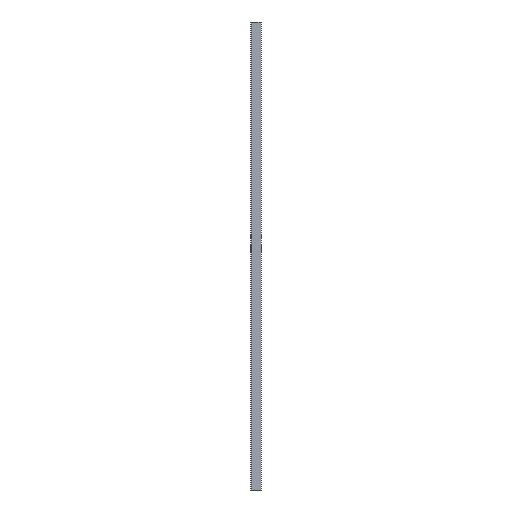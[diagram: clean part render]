
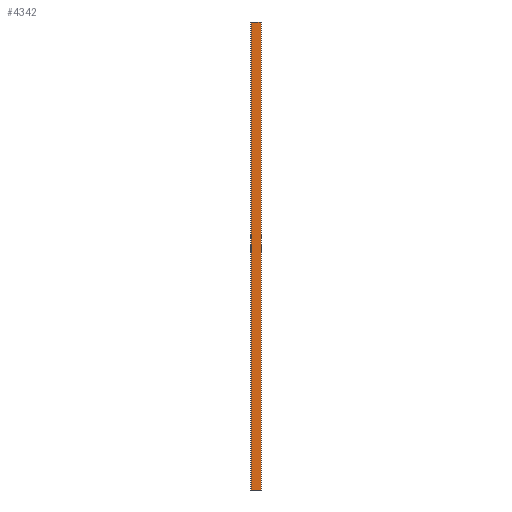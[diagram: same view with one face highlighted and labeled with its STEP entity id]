
A CAD part, left-side view. The second image highlights one B-rep face of the part: STEP entity #4342.
In plain terms, the highlighted planar face has unit normal (-1, 0, 0).
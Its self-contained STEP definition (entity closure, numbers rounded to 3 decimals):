
#214 = VECTOR ( 'NONE', #11265, 1000. ) ;
#708 = CARTESIAN_POINT ( 'NONE',  ( -27., -68.8, 1500. ) ) ;
#711 = DIRECTION ( 'NONE',  ( 0., 0., -1. ) ) ;
#1959 = DIRECTION ( 'NONE',  ( 0., 1., 0. ) ) ;
#2703 = LINE ( 'NONE', #9348, #5170 ) ;
#2888 = DIRECTION ( 'NONE',  ( 0., 0., -1. ) ) ;
#3363 = FACE_OUTER_BOUND ( 'NONE', #11208, .T. ) ;
#3382 = DIRECTION ( 'NONE',  ( -1., 0., 0. ) ) ;
#3549 = EDGE_CURVE ( 'NONE', #11297, #11405, #8459, .T. ) ;
#4342 = ADVANCED_FACE ( 'NONE', ( #3363 ), #9614, .T. ) ;
#4359 = CARTESIAN_POINT ( 'NONE',  ( -27., 0., 1500. ) ) ;
#4829 = LINE ( 'NONE', #10146, #11556 ) ;
#4924 = EDGE_CURVE ( 'NONE', #11297, #7346, #2703, .T. ) ;
#5170 = VECTOR ( 'NONE', #2888, 1000. ) ;
#5526 = ORIENTED_EDGE ( 'NONE', *, *, #8708, .F. ) ;
#5666 = VECTOR ( 'NONE', #1959, 1000. ) ;
#6316 = CARTESIAN_POINT ( 'NONE',  ( -27., -68.8, -1500. ) ) ;
#6443 = LINE ( 'NONE', #9128, #214 ) ;
#6538 = ORIENTED_EDGE ( 'NONE', *, *, #3549, .T. ) ;
#7000 = AXIS2_PLACEMENT_3D ( 'NONE', #4359, #3382, #10755 ) ;
#7218 = CARTESIAN_POINT ( 'NONE',  ( -27., 0., 1500. ) ) ;
#7346 = VERTEX_POINT ( 'NONE', #6316 ) ;
#7648 = EDGE_CURVE ( 'NONE', #11405, #12990, #4829, .T. ) ;
#8459 = LINE ( 'NONE', #7218, #5666 ) ;
#8708 = EDGE_CURVE ( 'NONE', #7346, #12990, #6443, .T. ) ;
#9128 = CARTESIAN_POINT ( 'NONE',  ( -27., 0., -1500. ) ) ;
#9348 = CARTESIAN_POINT ( 'NONE',  ( -27., -68.8, 1500. ) ) ;
#9614 = PLANE ( 'NONE',  #7000 ) ;
#10040 = ORIENTED_EDGE ( 'NONE', *, *, #7648, .T. ) ;
#10146 = CARTESIAN_POINT ( 'NONE',  ( -27., -5., 1500. ) ) ;
#10232 = ORIENTED_EDGE ( 'NONE', *, *, #4924, .F. ) ;
#10755 = DIRECTION ( 'NONE',  ( 0., 0., 1. ) ) ;
#11208 = EDGE_LOOP ( 'NONE', ( #5526, #10232, #6538, #10040 ) ) ;
#11265 = DIRECTION ( 'NONE',  ( 0., 1., 0. ) ) ;
#11297 = VERTEX_POINT ( 'NONE', #708 ) ;
#11405 = VERTEX_POINT ( 'NONE', #12575 ) ;
#11556 = VECTOR ( 'NONE', #711, 1000. ) ;
#12575 = CARTESIAN_POINT ( 'NONE',  ( -27., -5., 1500. ) ) ;
#12990 = VERTEX_POINT ( 'NONE', #13536 ) ;
#13536 = CARTESIAN_POINT ( 'NONE',  ( -27., -5., -1500. ) ) ;
